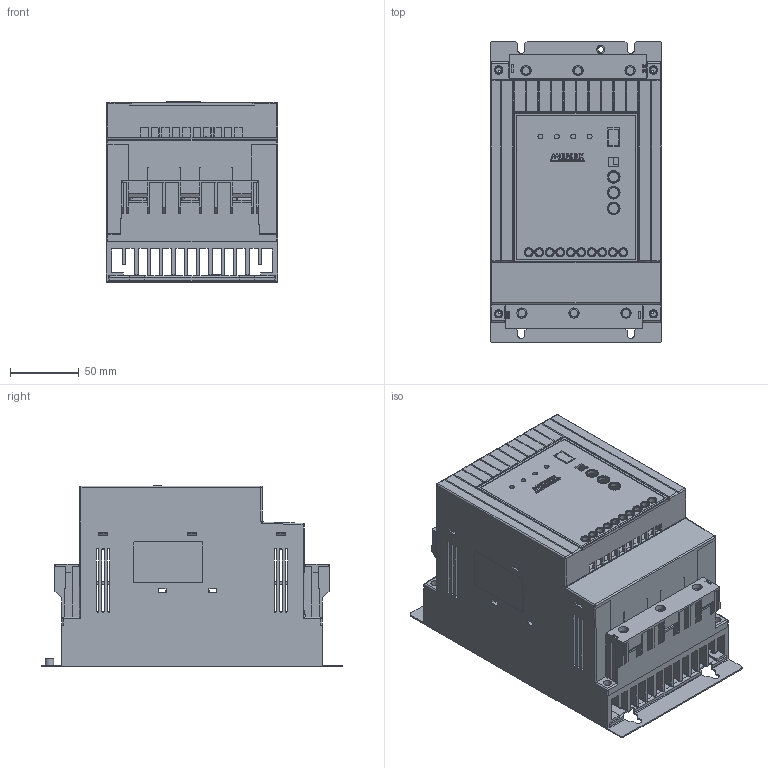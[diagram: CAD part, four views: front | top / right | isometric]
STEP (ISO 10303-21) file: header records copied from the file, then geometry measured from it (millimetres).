
FILE_DESCRIPTION(('FreeCAD Model'),'2;1');
FILE_NAME('Open CASCADE Shape Model','2022-04-18T13:51:17',( 'Engenharia Metaltex'),('Metaltex'), 'Open CASCADE STEP processor 7.5','FreeCAD','Unknown');
FILE_SCHEMA(('AUTOMOTIVE_DESIGN { 1 0 10303 214 1 1 1 1 }'));
Length unit declared in the file: millimetre
Products named in the file (3): PS10-C; Body; Logo
Assembly tree (2 placements, depth 2):
  PS10-C
    Body
    Logo
Bounding box: 125 x 220 x 132.1 mm (x, y, z)
Volume: 579766.6 mm3; surface area: 479660.3 mm2
Topology: 8 solids, 14 shells, 2722 faces, 7893 edges, 5163 vertices
Faces by surface type: plane 2027, cylinder 258, bspline 232, cone 193, sphere 10, torus 2
Full cylindrical faces by diameter (mm): 2.6 x6, 3 x9, 4 x5, 4.2 x4, 4.6 x5, 5 x5, 6 x1
Entity records: 203640 total; most frequent: CARTESIAN_POINT 54387, DIRECTION 24803, LINE 17590, VECTOR 17590, ORIENTED_EDGE 15770, PCURVE 15770, DEFINITIONAL_REPRESENTATION 15770, EDGE_CURVE 7885
